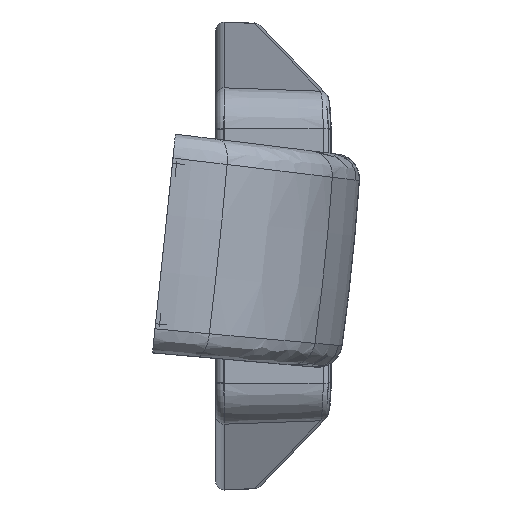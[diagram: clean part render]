
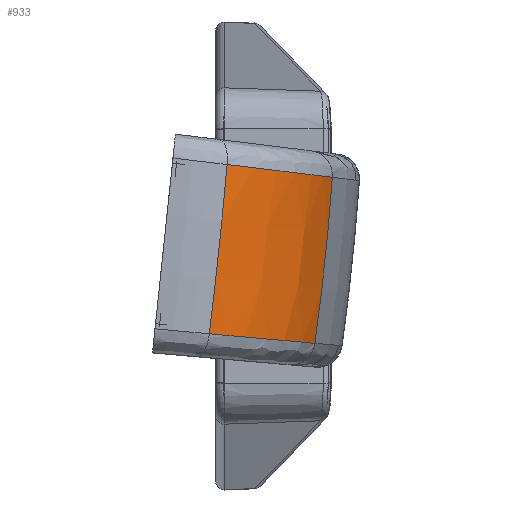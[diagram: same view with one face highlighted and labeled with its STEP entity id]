
A CAD part, left-side view. The second image highlights one B-rep face of the part: STEP entity #933.
In plain terms, the highlighted free-form (B-spline) face has degree [3, 3] with [4, 4] control points.
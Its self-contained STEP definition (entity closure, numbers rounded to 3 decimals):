
#130=(
BOUNDED_SURFACE()
B_SPLINE_SURFACE(3,3,((#39788,#39789,#39790,#39791),(#39792,#39793,#39794,
#39795),(#39796,#39797,#39798,#39799),(#39800,#39801,#39802,#39803)),
 .UNSPECIFIED.,.F.,.F.,.F.)
B_SPLINE_SURFACE_WITH_KNOTS((4,4),(4,4),(0.,1.),(0.,1.),.UNSPECIFIED.)
GEOMETRIC_REPRESENTATION_ITEM()
RATIONAL_B_SPLINE_SURFACE(((1.,0.946,0.946,1.),
(1.,0.946,0.946,1.),
(1.,0.946,0.946,1.),
(1.,0.946,0.946,1.)))
REPRESENTATION_ITEM('')
SURFACE()
);
#433=FACE_OUTER_BOUND('',#1360,.T.);
#693=B_SPLINE_CURVE_WITH_KNOTS('',3,(#39776,#39777,#39778,#39779,#39780,
#39781),.UNSPECIFIED.,.F.,.F.,(4,2,4),(0.,0.5,1.),.UNSPECIFIED.);
#694=B_SPLINE_CURVE_WITH_KNOTS('',3,(#39782,#39783,#39784,#39785,#39786,
#39787),.UNSPECIFIED.,.F.,.F.,(4,2,4),(0.,0.5,1.),.UNSPECIFIED.);
#933=ADVANCED_FACE('',(#433),#130,.T.);
#1360=EDGE_LOOP('',(#2979,#2980,#2981,#2982));
#2979=ORIENTED_EDGE('',*,*,#4110,.F.);
#2980=ORIENTED_EDGE('',*,*,#4188,.F.);
#2981=ORIENTED_EDGE('',*,*,#4125,.T.);
#2982=ORIENTED_EDGE('',*,*,#4189,.F.);
#3537=VERTEX_POINT('',#39235);
#3538=VERTEX_POINT('',#39237);
#3548=VERTEX_POINT('',#39443);
#3549=VERTEX_POINT('',#39444);
#4110=EDGE_CURVE('',#3537,#3538,#4356,.T.);
#4125=EDGE_CURVE('',#3548,#3549,#4360,.T.);
#4188=EDGE_CURVE('',#3548,#3537,#693,.T.);
#4189=EDGE_CURVE('',#3538,#3549,#694,.T.);
#4356=CIRCLE('',#4586,280.);
#4360=CIRCLE('',#4592,280.);
#4586=AXIS2_PLACEMENT_3D('',#39236,#5278,#5279);
#4592=AXIS2_PLACEMENT_3D('',#39442,#5293,#5294);
#5278=DIRECTION('',(0.952,-0.304,-0.032));
#5279=DIRECTION('',(-0.305,-0.95,-0.064));
#5293=DIRECTION('',(0.44,-0.893,-0.094));
#5294=DIRECTION('',(-0.898,-0.441,-0.009));
#39235=CARTESIAN_POINT('',(-496.8,-6.993,8.26));
#39236=CARTESIAN_POINT('',(-411.282,259.028,26.13));
#39237=CARTESIAN_POINT('',(-496.806,-4.897,-11.672));
#39442=CARTESIAN_POINT('',(-260.198,129.09,12.428));
#39443=CARTESIAN_POINT('',(-511.5,5.638,9.79));
#39444=CARTESIAN_POINT('',(-511.505,7.774,-10.534));
#39776=CARTESIAN_POINT('',(-511.5,5.638,9.79));
#39777=CARTESIAN_POINT('',(-509.869,2.326,9.389));
#39778=CARTESIAN_POINT('',(-507.575,-0.433,9.055));
#39779=CARTESIAN_POINT('',(-502.44,-4.641,8.545));
#39780=CARTESIAN_POINT('',(-499.603,-6.099,8.369));
#39781=CARTESIAN_POINT('',(-496.8,-6.993,8.26));
#39782=CARTESIAN_POINT('',(-496.806,-4.897,-11.672));
#39783=CARTESIAN_POINT('',(-499.608,-4.001,-11.591));
#39784=CARTESIAN_POINT('',(-502.445,-2.538,-11.459));
#39785=CARTESIAN_POINT('',(-507.58,1.684,-11.08));
#39786=CARTESIAN_POINT('',(-509.874,4.452,-10.832));
#39787=CARTESIAN_POINT('',(-511.505,7.774,-10.534));
#39788=CARTESIAN_POINT('',(-496.688,-4.889,-11.993));
#39789=CARTESIAN_POINT('',(-503.254,-2.828,-11.774));
#39790=CARTESIAN_POINT('',(-508.473,1.639,-11.303));
#39791=CARTESIAN_POINT('',(-511.501,7.789,-10.656));
#39792=CARTESIAN_POINT('',(-496.763,-5.851,-5.164));
#39793=CARTESIAN_POINT('',(-503.397,-3.769,-4.943));
#39794=CARTESIAN_POINT('',(-508.669,0.744,-4.467));
#39795=CARTESIAN_POINT('',(-511.728,6.957,-3.813));
#39796=CARTESIAN_POINT('',(-496.761,-6.572,1.695));
#39797=CARTESIAN_POINT('',(-503.395,-4.49,1.916));
#39798=CARTESIAN_POINT('',(-508.667,0.023,2.392));
#39799=CARTESIAN_POINT('',(-511.726,6.236,3.046));
#39800=CARTESIAN_POINT('',(-496.683,-7.051,8.575));
#39801=CARTESIAN_POINT('',(-503.249,-4.99,8.793));
#39802=CARTESIAN_POINT('',(-508.468,-0.523,9.264));
#39803=CARTESIAN_POINT('',(-511.496,5.627,9.912));
